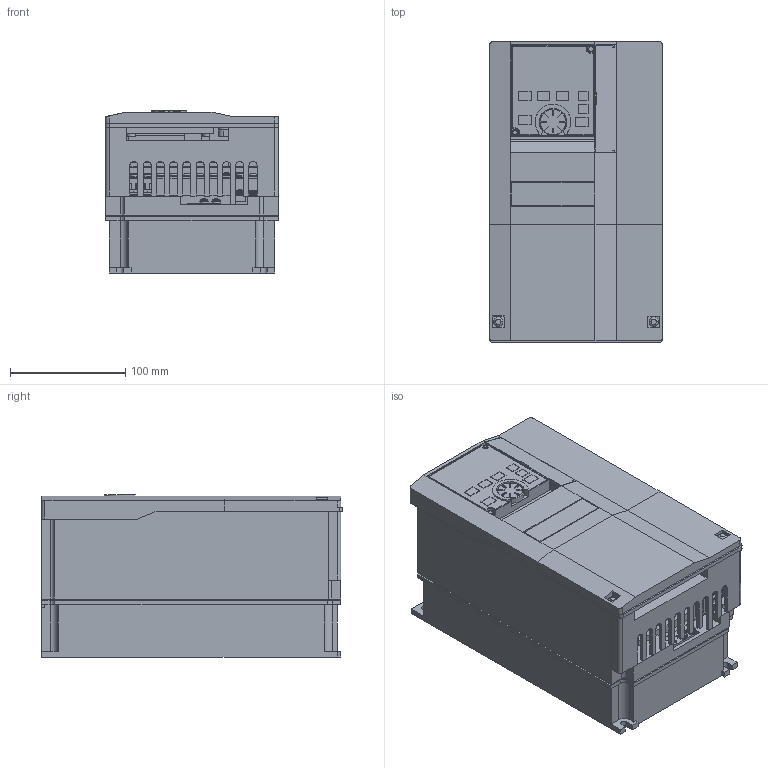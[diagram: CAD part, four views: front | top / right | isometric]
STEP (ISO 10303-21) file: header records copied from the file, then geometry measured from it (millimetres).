
FILE_DESCRIPTION((''),'2;1');
FILE_NAME('3D-INV-A8-01_04_ASM','2014-01-20T',('PZ79677'),(''),'PRO/ENGINEER BY PARAMETRIC TECHNOLOGY CORPORATION, 2011490','PRO/ENGINEER BY PARAMETRIC TECHNOLOGY CORPORATION, 2011490','');
FILE_SCHEMA(('CONFIG_CONTROL_DESIGN'));
Length unit declared in the file: millimetre
Products named in the file (23): 3D-BASE-A8-01_04; 3D-POWER-A8-01_04_ASM; 3D-FAN-60; 3D-FAN_COV-A8-01_04; 3D-SW-PW-P-NA-M4X8_; 3D-SHORT-PRPX-A8-01_04; 3D-SHORT-P_P1-A8-01_04; 3D-SHORT-R1S1-A8-01_04; 3D-TE_NEJI-M4X8-ZA9_5_; 3D-TE_NEJI-M4X8-ZA7_8_; 3D-SW-PW-P-M3_5X6_; 3D-SW-PW-P-M3_5X8_; 3D-TE_COV-A8-01_04; 3D-TE-A8-01_04_ASM; 3D-TA-A8; 3D-A8-TA_ASM; 3D-SEN_COV-A8-01_04; 3D-COV_UPR-A8-01_04; 3D-DU_ASSY-A8; 3D-IF_COV-A80; 3D-COV_UPR-A8-01_04_ASM; 3D-COV_LWR-A8-01_04; 3D-INV-A8-01_04_ASM
Assembly tree (37 placements, depth 3):
  3D-INV-A8-01_04_ASM
    3D-POWER-A8-01_04_ASM
      3D-BASE-A8-01_04
    3D-FAN-60
    3D-FAN_COV-A8-01_04
    3D-SW-PW-P-NA-M4X8_  x2
    3D-TE-A8-01_04_ASM
      3D-SHORT-PRPX-A8-01_04  x2
      3D-SHORT-P_P1-A8-01_04
      3D-SHORT-R1S1-A8-01_04  x2
      3D-TE_NEJI-M4X8-ZA9_5_  x10
      3D-TE_NEJI-M4X8-ZA7_8_  x2
      3D-SW-PW-P-M3_5X6_  x2
      3D-SW-PW-P-M3_5X8_  x2
      3D-TE_COV-A8-01_04
    3D-A8-TA_ASM
      3D-TA-A8
    3D-SEN_COV-A8-01_04
    3D-COV_UPR-A8-01_04_ASM
      3D-COV_UPR-A8-01_04
      3D-DU_ASSY-A8
      3D-IF_COV-A80
    3D-COV_LWR-A8-01_04
Bounding box: 150 x 261.5 x 141 mm (x, y, z)
Volume: 3879371.8 mm3; surface area: 557800 mm2
Topology: 34 solids, 37 shells, 2054 faces, 5310 edges, 3469 vertices
Faces by surface type: plane 1561, cylinder 343, torus 56, cone 48, sphere 46
Entity records: 56363 total; most frequent: CARTESIAN_POINT 9854, ORIENTED_EDGE 9544, DIRECTION 9331, EDGE_CURVE 4772, VECTOR 4017, LINE 4017, VERTEX_POINT 3154, AXIS2_PLACEMENT_3D 2657
